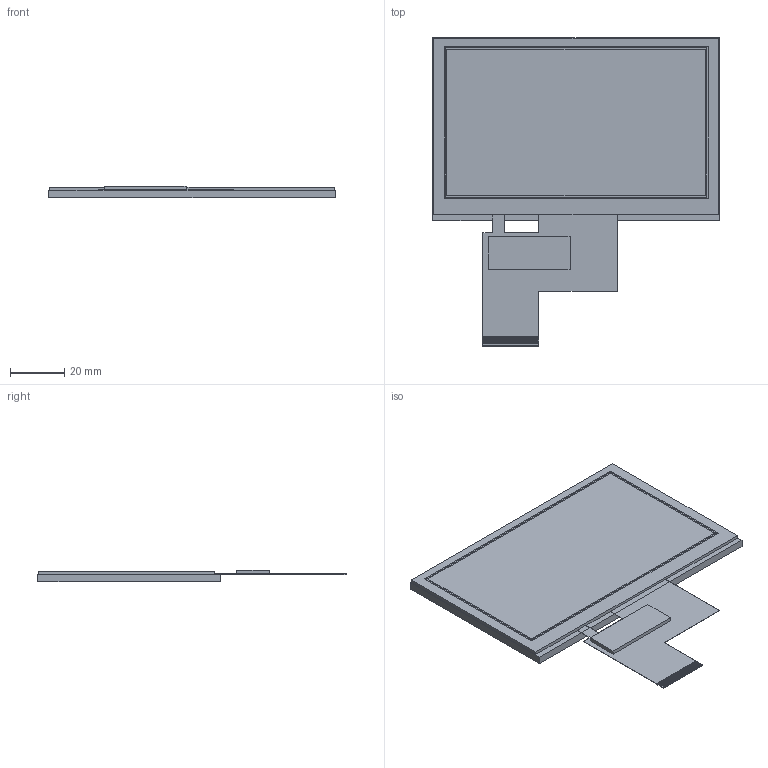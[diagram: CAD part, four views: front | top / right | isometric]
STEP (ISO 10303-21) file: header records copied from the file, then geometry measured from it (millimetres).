
FILE_DESCRIPTION (( 'STEP AP214' ), '1' );
FILE_NAME ('CFAF480272C2-043TS.STEP', '2019-10-18T21:01:05', ( '' ), ( '' ), 'SwSTEP 2.0', 'SolidWorks 2015', '' );
FILE_SCHEMA (( 'AUTOMOTIVE_DESIGN' ));
Length unit declared in the file: millimetre
Products named in the file (1): CFAF480272C2-043TS
Bounding box: 105.4 x 113.25 x 4.36 mm (x, y, z)
Volume: 28670.2 mm3; surface area: 19733.3 mm2
Topology: 42 solids, 42 shells, 275 faces, 578 edges, 388 vertices
Faces by surface type: plane 275
Entity records: 7988 total; most frequent: CARTESIAN_POINT 1242, ORIENTED_EDGE 1156, DIRECTION 1130, VECTOR 578, EDGE_CURVE 578, LINE 578, VERTEX_POINT 388, EDGE_LOOP 278
